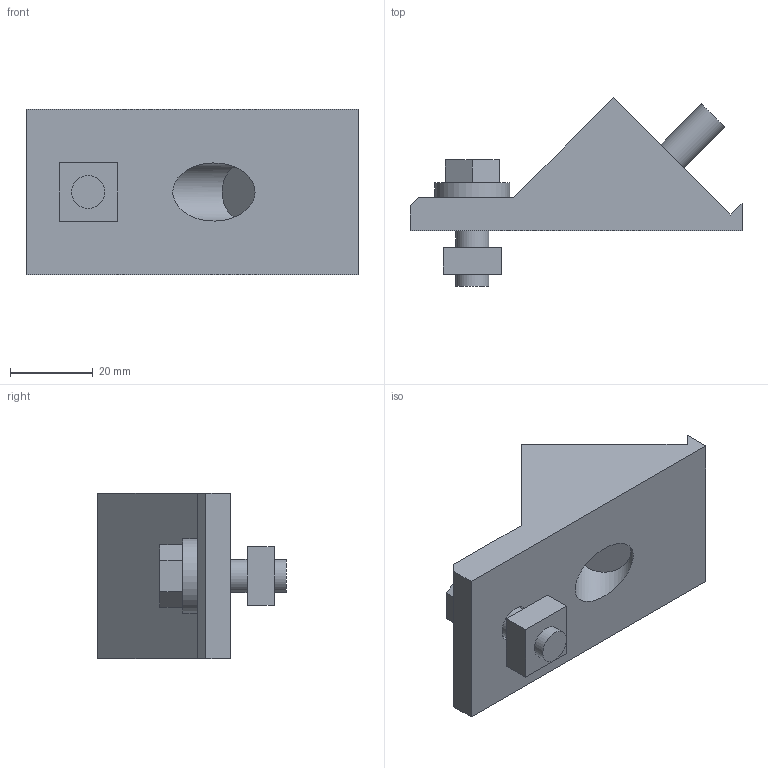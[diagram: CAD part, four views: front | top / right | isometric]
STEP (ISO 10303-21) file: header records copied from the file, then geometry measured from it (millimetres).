
FILE_DESCRIPTION((''),'2;1');
FILE_NAME('C:\Documents and Settings\古川典政\My Documents\Inventor\HP用\MasterData\BRACKET\M8\ABT-4540-8.stp','2008-07-31T10:56:41',(''),(''),'Autodesk Inventor 2008','Autodesk Inventor 2008','');
FILE_SCHEMA(('CONFIG_CONTROL_DESIGN'));
Length unit declared in the file: millimetre
Products named in the file (5): ABT-4540-8; ABT-4540-81; ABT-4540-82; ABT-4540-83; ABT-4540-84
Assembly tree (4 placements, depth 2):
  ABT-4540-8
    ABT-4540-81
    ABT-4540-82
    ABT-4540-83
    ABT-4540-84
Bounding box: 80 x 45.44 x 40 mm (x, y, z)
Volume: 50178.9 mm3; surface area: 14783.1 mm2
Topology: 4 solids, 4 shells, 40 faces, 85 edges, 58 vertices
Faces by surface type: plane 31, cylinder 7, bspline 2
Full cylindrical faces by diameter (mm): 8 x2, 8.4 x1, 9 x1, 13 x1, 14 x1, 18 x1
Entity records: 1166 total; most frequent: CARTESIAN_POINT 209, DIRECTION 184, ORIENTED_EDGE 144, EDGE_CURVE 72, AXIS2_PLACEMENT_3D 65, EDGE_LOOP 60, VERTEX_POINT 54, VECTOR 54
